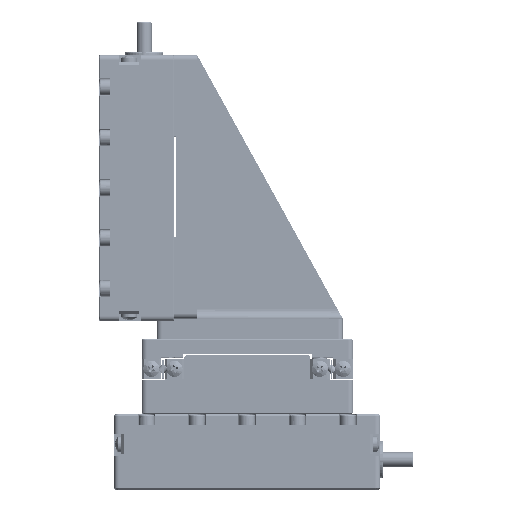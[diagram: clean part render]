
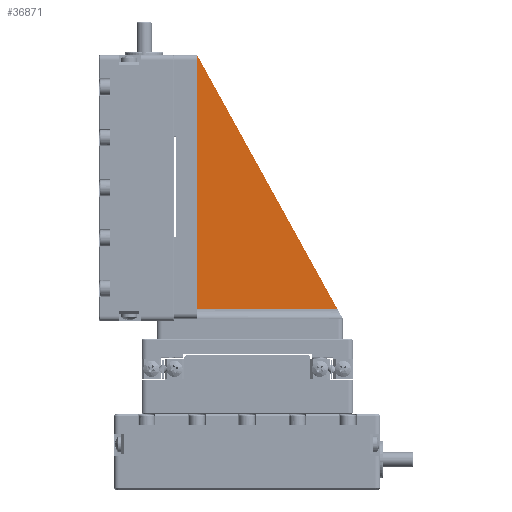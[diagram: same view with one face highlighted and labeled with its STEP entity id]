
A CAD part, top view. The second image highlights one B-rep face of the part: STEP entity #36871.
In plain terms, the highlighted planar face has unit normal (0, 0, 1).
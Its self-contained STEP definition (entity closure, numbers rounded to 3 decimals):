
#2565 = CARTESIAN_POINT ( 'NONE',  ( -15.079, 22.064, 2.501 ) ) ;
#3111 = ORIENTED_EDGE ( 'NONE', *, *, #56473, .F. ) ;
#9086 = CARTESIAN_POINT ( 'NONE',  ( 12.816, 22.064, 2.501 ) ) ;
#26902 = AXIS2_PLACEMENT_3D ( 'NONE', #192657, #176582, #87199 ) ;
#36361 = ORIENTED_EDGE ( 'NONE', *, *, #156206, .T. ) ;
#36871 = ADVANCED_FACE ( 'NONE', ( #191753 ), #118387, .F. ) ;
#37881 = VECTOR ( 'NONE', #137061, 1000. ) ;
#41415 = VERTEX_POINT ( 'NONE', #9086 ) ;
#43548 = VECTOR ( 'NONE', #147965, 1000. ) ;
#56473 = EDGE_CURVE ( 'NONE', #139907, #189594, #195510, .T. ) ;
#63276 = EDGE_LOOP ( 'NONE', ( #3111, #36361, #171902 ) ) ;
#87026 = EDGE_CURVE ( 'NONE', #189594, #41415, #181922, .T. ) ;
#87199 = DIRECTION ( 'NONE',  ( -1., 0., 0. ) ) ;
#88503 = DIRECTION ( 'NONE',  ( 1., 0., 0. ) ) ;
#104837 = VECTOR ( 'NONE', #88503, 1000. ) ;
#118387 = PLANE ( 'NONE',  #26902 ) ;
#121392 = LINE ( 'NONE', #164569, #104837 ) ;
#127424 = CARTESIAN_POINT ( 'NONE',  ( -15.079, 72.564, 2.501 ) ) ;
#137061 = DIRECTION ( 'NONE',  ( 0., 1., 0. ) ) ;
#139907 = VERTEX_POINT ( 'NONE', #2565 ) ;
#147965 = DIRECTION ( 'NONE',  ( 0.484, -0.875, 0. ) ) ;
#153086 = CARTESIAN_POINT ( 'NONE',  ( -15.079, 72.564, 2.501 ) ) ;
#156206 = EDGE_CURVE ( 'NONE', #139907, #41415, #121392, .T. ) ;
#163373 = CARTESIAN_POINT ( 'NONE',  ( 13.921, 20.064, 2.501 ) ) ;
#164569 = CARTESIAN_POINT ( 'NONE',  ( 13.921, 22.064, 2.501 ) ) ;
#171902 = ORIENTED_EDGE ( 'NONE', *, *, #87026, .F. ) ;
#176582 = DIRECTION ( 'NONE',  ( 0., 0., -1. ) ) ;
#181922 = LINE ( 'NONE', #163373, #43548 ) ;
#189594 = VERTEX_POINT ( 'NONE', #127424 ) ;
#191753 = FACE_OUTER_BOUND ( 'NONE', #63276, .T. ) ;
#192657 = CARTESIAN_POINT ( 'NONE',  ( -4.579, 16.064, 2.501 ) ) ;
#195510 = LINE ( 'NONE', #153086, #37881 ) ;
